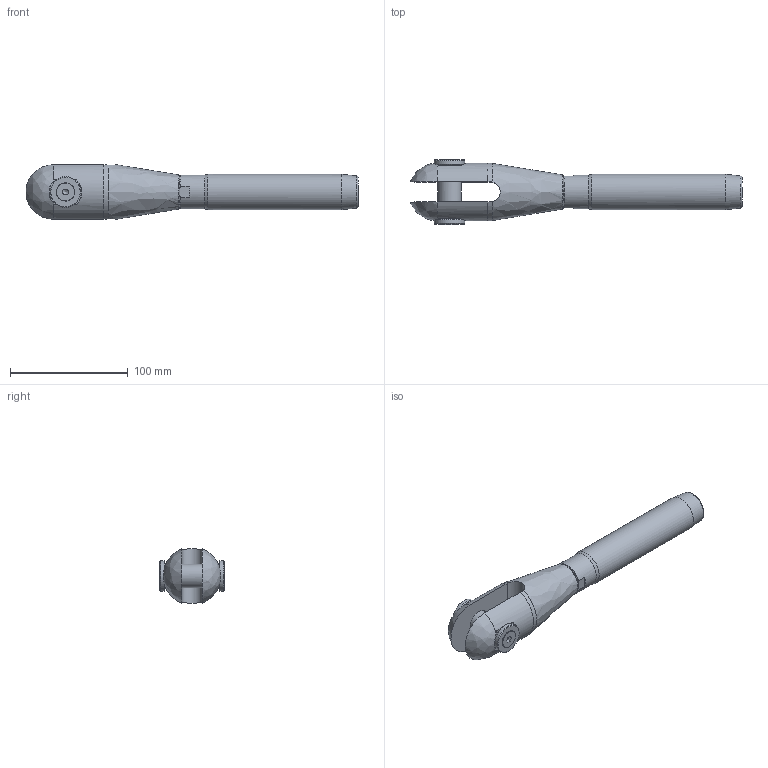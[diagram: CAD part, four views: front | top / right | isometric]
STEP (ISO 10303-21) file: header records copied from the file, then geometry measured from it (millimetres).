
FILE_DESCRIPTION(/* description */ (''),/* implementation_level */ '2;1');
FILE_NAME(/* name */ 'MAC-R 14_1,4418',/* time_stamp */ '2023-05-23T17:52:07+02:00',/* author */ (''),/* organization */ (''),/* preprocessor_version */ 'ST-DEVELOPER v16.5',/* originating_system */ 'Rhino 7.22',/* authorisation */ '');
FILE_SCHEMA (('CONFIG_CONTROL_DESIGN'));
Length unit declared in the file: millimetre
Products named in the file (1): Document
Bounding box: 281.47 x 55.57 x 46.23 mm (x, y, z)
Volume: 248159.5 mm3; surface area: 53288.9 mm2
Topology: 7 solids, 7 shells, 88 faces, 245 edges, 170 vertices
Faces by surface type: plane 36, bspline 28, cylinder 24
Full cylindrical faces by diameter (mm): 6.647 x2, 8 x2, 8.5 x2, 15.24 x2, 20 x1, 20.752 x1, 21 x2, 24 x1, 26 x2, 28.6 x1, 30 x1
Entity records: 3490 total; most frequent: CARTESIAN_POINT 1931, ORIENTED_EDGE 480, EDGE_CURVE 240, VERTEX_POINT 170, EDGE_LOOP 100, B_SPLINE_CURVE_WITH_KNOTS 97, ADVANCED_FACE 88, FACE_OUTER_BOUND 88
